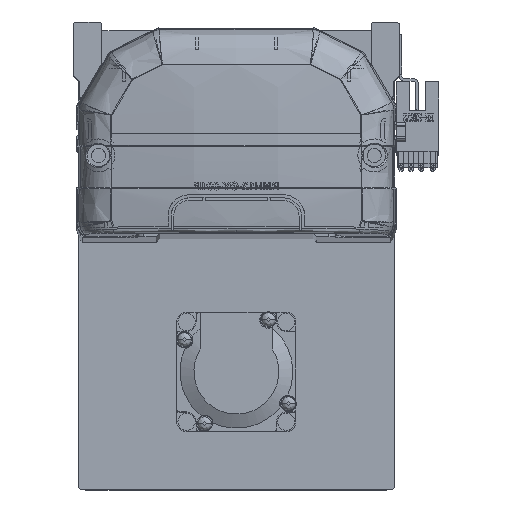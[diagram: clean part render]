
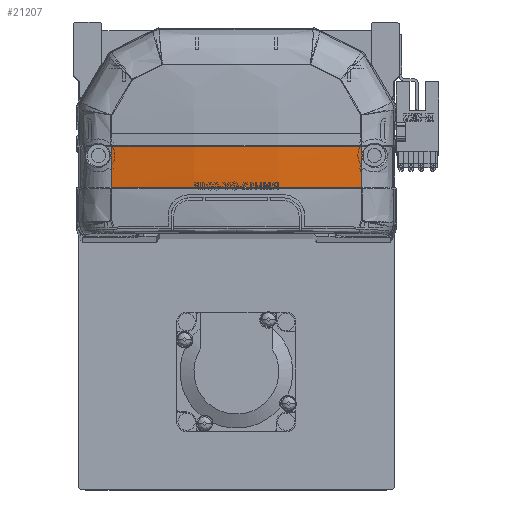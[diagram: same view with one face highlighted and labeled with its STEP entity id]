
A CAD part, top view. The second image highlights one B-rep face of the part: STEP entity #21207.
In plain terms, the highlighted free-form (B-spline) face has degree [3, 3] with [4, 4] control points.
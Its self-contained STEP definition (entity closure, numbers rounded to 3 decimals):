
#939 = CARTESIAN_POINT ( 'NONE',  ( -26.748, 28.706, -8.432 ) ) ;
#1009 = CARTESIAN_POINT ( 'NONE',  ( -40.461, 24.47, -6.231 ) ) ;
#1587 = CARTESIAN_POINT ( 'NONE',  ( -13.598, 24.342, -10.47 ) ) ;
#2261 = CARTESIAN_POINT ( 'NONE',  ( 39.985, 15.83, -5.879 ) ) ;
#2917 = CARTESIAN_POINT ( 'NONE',  ( 39.985, 15.83, -5.879 ) ) ;
#4153 = CARTESIAN_POINT ( 'NONE',  ( -33.365, 15.83, -6.848 ) ) ;
#4346 = CARTESIAN_POINT ( 'NONE',  ( -23.389, 15.83, -7.947 ) ) ;
#4756 = EDGE_CURVE ( 'NONE', #17654, #32154, #41574, .T. ) ;
#5195 = CARTESIAN_POINT ( 'NONE',  ( -39.963, 28.706, -6.372 ) ) ;
#5542 = CARTESIAN_POINT ( 'NONE',  ( -13.373, 28.707, -9.468 ) ) ;
#5999 = CARTESIAN_POINT ( 'NONE',  ( -13.598, 19.918, -10.302 ) ) ;
#10031 = CARTESIAN_POINT ( 'NONE',  ( 13.598, 28.769, -10.535 ) ) ;
#10607 = CARTESIAN_POINT ( 'NONE',  ( -13.598, 28.769, -10.535 ) ) ;
#14351 = EDGE_CURVE ( 'NONE', #18491, #27472, #16530, .T. ) ;
#14472 = CARTESIAN_POINT ( 'NONE',  ( -39.963, 28.706, -6.372 ) ) ;
#14657 = CARTESIAN_POINT ( 'NONE',  ( -40.461, 20.111, -6.066 ) ) ;
#14854 = CARTESIAN_POINT ( 'NONE',  ( 13.598, 19.918, -10.302 ) ) ;
#16530 = B_SPLINE_CURVE_WITH_KNOTS ( 'NONE', 3,
 ( #40493, #27275, #32054, #45733, #17648, #4346, #23107, #4153, #18238, #36684 ),
 .UNSPECIFIED., .F., .F.,
 ( 4, 2, 2, 2, 4 ),
 ( 0., 0.04, 0.06, 0.07, 0.08 ),
 .UNSPECIFIED. ) ;
#17648 = CARTESIAN_POINT ( 'NONE',  ( -13.384, 15.83, -8.724 ) ) ;
#17654 = VERTEX_POINT ( 'NONE', #14472 ) ;
#18238 = CARTESIAN_POINT ( 'NONE',  ( -36.679, 15.83, -6.395 ) ) ;
#18491 = VERTEX_POINT ( 'NONE', #2917 ) ;
#18843 = CARTESIAN_POINT ( 'NONE',  ( -39.973, 20.118, -6.142 ) ) ;
#19420 = EDGE_CURVE ( 'NONE', #18491, #32154, #48421, .T. ) ;
#20488 = ORIENTED_EDGE ( 'NONE', *, *, #19420, .T. ) ;
#21207 = ADVANCED_FACE ( 'NONE', ( #56276 ), #53448, .F. ) ;
#21281 = CARTESIAN_POINT ( 'NONE',  ( 39.963, 28.706, -6.372 ) ) ;
#23107 = CARTESIAN_POINT ( 'NONE',  ( -26.721, 15.83, -7.624 ) ) ;
#24690 = CARTESIAN_POINT ( 'NONE',  ( 40.461, 28.832, -6.296 ) ) ;
#25399 = EDGE_CURVE ( 'NONE', #17654, #27472, #26378, .T. ) ;
#26378 = B_SPLINE_CURVE_WITH_KNOTS ( 'NONE', 3,
 ( #5195, #41511, #18843, #55756 ),
 .UNSPECIFIED., .F., .F.,
 ( 4, 4 ),
 ( 0., 1. ),
 .UNSPECIFIED. ) ;
#27275 = CARTESIAN_POINT ( 'NONE',  ( 26.761, 15.83, -7.945 ) ) ;
#27472 = VERTEX_POINT ( 'NONE', #54445 ) ;
#28700 = CARTESIAN_POINT ( 'NONE',  ( 40.461, 20.111, -6.066 ) ) ;
#28710 = ORIENTED_EDGE ( 'NONE', *, *, #25399, .T. ) ;
#32054 = CARTESIAN_POINT ( 'NONE',  ( 13.38, 15.83, -8.984 ) ) ;
#32154 = VERTEX_POINT ( 'NONE', #21281 ) ;
#32818 = CARTESIAN_POINT ( 'NONE',  ( -39.963, 28.706, -6.372 ) ) ;
#33080 = CARTESIAN_POINT ( 'NONE',  ( -40.461, 28.832, -6.296 ) ) ;
#33414 = CARTESIAN_POINT ( 'NONE',  ( 26.749, 28.706, -8.432 ) ) ;
#33866 = CARTESIAN_POINT ( 'NONE',  ( 13.598, 15.499, -10.032 ) ) ;
#36684 = CARTESIAN_POINT ( 'NONE',  ( -39.985, 15.83, -5.879 ) ) ;
#37440 = CARTESIAN_POINT ( 'NONE',  ( 13.375, 28.707, -9.468 ) ) ;
#37640 = CARTESIAN_POINT ( 'NONE',  ( 39.963, 28.706, -6.372 ) ) ;
#37910 = CARTESIAN_POINT ( 'NONE',  ( -13.598, 15.499, -10.032 ) ) ;
#38024 = CARTESIAN_POINT ( 'NONE',  ( 39.963, 28.706, -6.372 ) ) ;
#38108 = CARTESIAN_POINT ( 'NONE',  ( 40.461, 15.757, -5.8 ) ) ;
#40493 = CARTESIAN_POINT ( 'NONE',  ( 39.985, 15.83, -5.879 ) ) ;
#41511 = CARTESIAN_POINT ( 'NONE',  ( -39.966, 24.412, -6.306 ) ) ;
#41574 = B_SPLINE_CURVE_WITH_KNOTS ( 'NONE', 3,
 ( #32818, #939, #5542, #37440, #33414, #37640 ),
 .UNSPECIFIED., .F., .F.,
 ( 4, 2, 4 ),
 ( 0., 0.5, 1. ),
 .UNSPECIFIED. ) ;
#42132 = CARTESIAN_POINT ( 'NONE',  ( -40.461, 15.757, -5.8 ) ) ;
#45733 = CARTESIAN_POINT ( 'NONE',  ( -6.692, 15.83, -8.984 ) ) ;
#47052 = ORIENTED_EDGE ( 'NONE', *, *, #14351, .F. ) ;
#47448 = CARTESIAN_POINT ( 'NONE',  ( 39.966, 24.413, -6.306 ) ) ;
#47830 = CARTESIAN_POINT ( 'NONE',  ( 39.973, 20.12, -6.142 ) ) ;
#48421 = B_SPLINE_CURVE_WITH_KNOTS ( 'NONE', 3,
 ( #2261, #47830, #47448, #38024 ),
 .UNSPECIFIED., .F., .F.,
 ( 4, 4 ),
 ( 0., 1. ),
 .UNSPECIFIED. ) ;
#48603 = ORIENTED_EDGE ( 'NONE', *, *, #4756, .F. ) ;
#50933 = EDGE_LOOP ( 'NONE', ( #20488, #48603, #28710, #47052 ) ) ;
#51708 = CARTESIAN_POINT ( 'NONE',  ( 40.461, 24.47, -6.231 ) ) ;
#53448 =( BOUNDED_SURFACE ( )  B_SPLINE_SURFACE ( 3, 3, ( 
 ( #38108, #28700, #51708, #24690 ),
 ( #33866, #14854, #56752, #10031 ),
 ( #37910, #5999, #1587, #10607 ),
 ( #42132, #14657, #1009, #33080 ) ),
 .UNSPECIFIED., .F., .F., .F. ) 
 B_SPLINE_SURFACE_WITH_KNOTS ( ( 4, 4 ),
 ( 4, 4 ),
 ( 0., 1. ),
 ( 0., 1. ),
 .UNSPECIFIED. ) 
 GEOMETRIC_REPRESENTATION_ITEM ( )  RATIONAL_B_SPLINE_SURFACE ( (
 ( 1., 1., 1., 1.),
 ( 0.992, 0.992, 0.992, 0.992),
 ( 0.992, 0.992, 0.992, 0.992),
 ( 1., 1., 1., 1.) ) ) 
 REPRESENTATION_ITEM ( '' )  SURFACE ( )  );
#54445 = CARTESIAN_POINT ( 'NONE',  ( -39.985, 15.83, -5.879 ) ) ;
#55756 = CARTESIAN_POINT ( 'NONE',  ( -39.985, 15.83, -5.879 ) ) ;
#56276 = FACE_OUTER_BOUND ( 'NONE', #50933, .T. ) ;
#56752 = CARTESIAN_POINT ( 'NONE',  ( 13.598, 24.342, -10.47 ) ) ;
